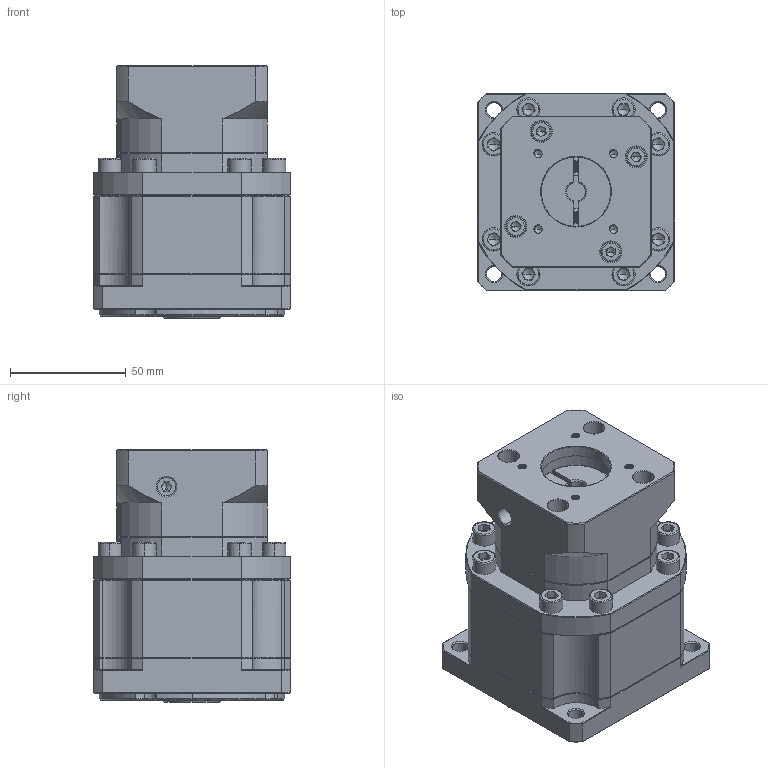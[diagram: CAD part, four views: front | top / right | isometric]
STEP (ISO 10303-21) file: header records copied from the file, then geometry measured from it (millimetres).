
FILE_DESCRIPTION (( 'STEP AP214' ), '1' );
FILE_NAME ('ZB90-K15-L2-8-30-46-M4.STEP', '2022-05-02T15:09:35', ( '' ), ( 'Microsoft' ), 'SwSTEP 2.0', 'SolidWorks 2016', '' );
FILE_SCHEMA (( 'AUTOMOTIVE_DESIGN' ));
Length unit declared in the file: millimetre
Products named in the file (1): ZB90-K15-L2-8-30-46-M4
Bounding box: 85 x 85 x 109 mm (x, y, z)
Volume: 532773.8 mm3; surface area: 75233.2 mm2
Topology: 6 solids, 6 shells, 2023 faces, 5309 edges, 3376 vertices
Faces by surface type: plane 998, cylinder 367, cone 318, bspline 318, torus 22
Entity records: 101066 total; most frequent: CARTESIAN_POINT 31403, ORIENTED_EDGE 10530, DIRECTION 8766, EDGE_CURVE 5265, VERTEX_POINT 3376, LINE 3260, VECTOR 3260, AXIS2_PLACEMENT_3D 2753
